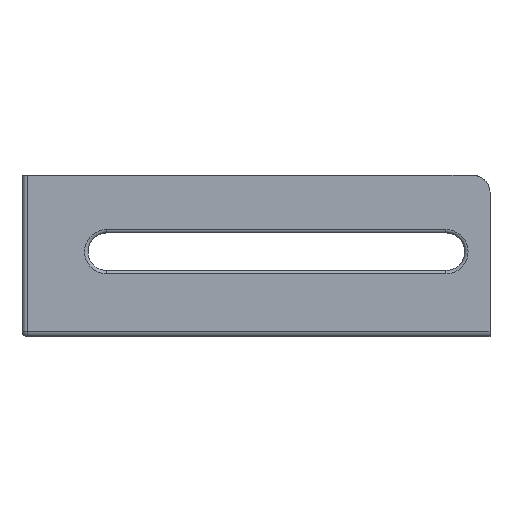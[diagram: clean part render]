
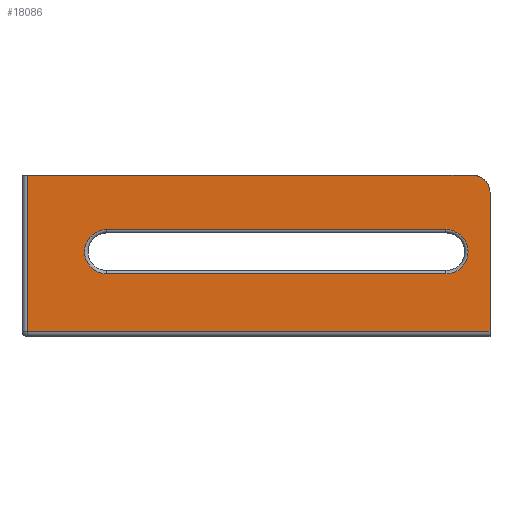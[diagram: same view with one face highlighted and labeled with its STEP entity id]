
A CAD part, front view. The second image highlights one B-rep face of the part: STEP entity #18086.
In plain terms, the highlighted planar face has unit normal (0, -1, 0).
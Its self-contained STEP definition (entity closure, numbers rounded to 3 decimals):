
#1435 = CIRCLE ( 'NONE', #3292, 13.075 ) ;
#1660 = EDGE_CURVE ( 'NONE', #14816, #28526, #15898, .T. ) ;
#1731 = CARTESIAN_POINT ( 'NONE',  ( 50., 0., 50. ) ) ;
#1872 = CARTESIAN_POINT ( 'NONE',  ( 50., 0., 63.075 ) ) ;
#2092 = CARTESIAN_POINT ( 'NONE',  ( 266., 0., 95. ) ) ;
#2197 = LINE ( 'NONE', #22232, #5963 ) ;
#2376 = CARTESIAN_POINT ( 'NONE',  ( 0., 0., 3. ) ) ;
#2630 = ORIENTED_EDGE ( 'NONE', *, *, #5893, .F. ) ;
#2733 = LINE ( 'NONE', #22332, #10478 ) ;
#2878 = DIRECTION ( 'NONE',  ( 1., 0., 0. ) ) ;
#3181 = CARTESIAN_POINT ( 'NONE',  ( 3., 0., 95. ) ) ;
#3292 = AXIS2_PLACEMENT_3D ( 'NONE', #1731, #10553, #19586 ) ;
#3773 = FACE_OUTER_BOUND ( 'NONE', #22434, .T. ) ;
#4164 = LINE ( 'NONE', #2376, #7013 ) ;
#5893 = EDGE_CURVE ( 'NONE', #12910, #12161, #21946, .T. ) ;
#5963 = VECTOR ( 'NONE', #22099, 1000. ) ;
#6254 = DIRECTION ( 'NONE',  ( -1., 0., 0. ) ) ;
#6290 = VECTOR ( 'NONE', #20150, 1000. ) ;
#6897 = ORIENTED_EDGE ( 'NONE', *, *, #12334, .F. ) ;
#7013 = VECTOR ( 'NONE', #10366, 1000. ) ;
#7177 = CARTESIAN_POINT ( 'NONE',  ( 250., 0., 63.075 ) ) ;
#7395 = EDGE_CURVE ( 'NONE', #21671, #12910, #11193, .T. ) ;
#8025 = DIRECTION ( 'NONE',  ( 0., 0., 1. ) ) ;
#8851 = EDGE_CURVE ( 'NONE', #27618, #21671, #2733, .T. ) ;
#9262 = DIRECTION ( 'NONE',  ( 0., 0., 1. ) ) ;
#9403 = CARTESIAN_POINT ( 'NONE',  ( 3., 0., 95. ) ) ;
#9778 = VECTOR ( 'NONE', #9262, 1000. ) ;
#10366 = DIRECTION ( 'NONE',  ( -1., 0., 0. ) ) ;
#10478 = VECTOR ( 'NONE', #2878, 1000. ) ;
#10553 = DIRECTION ( 'NONE',  ( 0., -1., 0. ) ) ;
#11193 = CIRCLE ( 'NONE', #14870, 13.075 ) ;
#12088 = VERTEX_POINT ( 'NONE', #9403 ) ;
#12161 = VERTEX_POINT ( 'NONE', #1872 ) ;
#12334 = EDGE_CURVE ( 'NONE', #12088, #14816, #24491, .T. ) ;
#12614 = EDGE_LOOP ( 'NONE', ( #2630, #22001, #21497, #23232 ) ) ;
#12910 = VERTEX_POINT ( 'NONE', #7177 ) ;
#13822 = DIRECTION ( 'NONE',  ( 0., -1., 0. ) ) ;
#14582 = FACE_BOUND ( 'NONE', #12614, .T. ) ;
#14694 = ORIENTED_EDGE ( 'NONE', *, *, #21530, .F. ) ;
#14816 = VERTEX_POINT ( 'NONE', #2092 ) ;
#14854 = CARTESIAN_POINT ( 'NONE',  ( 250., 0., 36.925 ) ) ;
#14870 = AXIS2_PLACEMENT_3D ( 'NONE', #26783, #13822, #20297 ) ;
#15587 = ORIENTED_EDGE ( 'NONE', *, *, #16276, .F. ) ;
#15898 = CIRCLE ( 'NONE', #26470, 10. ) ;
#16091 = VERTEX_POINT ( 'NONE', #17211 ) ;
#16276 = EDGE_CURVE ( 'NONE', #28526, #16091, #2197, .T. ) ;
#17046 = PLANE ( 'NONE',  #26240 ) ;
#17185 = CARTESIAN_POINT ( 'NONE',  ( 0., 0., 95. ) ) ;
#17211 = CARTESIAN_POINT ( 'NONE',  ( 276., 0., 3. ) ) ;
#18086 = ADVANCED_FACE ( 'NONE', ( #14582, #3773 ), #17046, .T. ) ;
#18489 = VERTEX_POINT ( 'NONE', #18548 ) ;
#18548 = CARTESIAN_POINT ( 'NONE',  ( 3., 0., 3. ) ) ;
#19218 = CARTESIAN_POINT ( 'NONE',  ( 266., 0., 85. ) ) ;
#19586 = DIRECTION ( 'NONE',  ( 0., 0., 1. ) ) ;
#20150 = DIRECTION ( 'NONE',  ( 1., 0., 0. ) ) ;
#20297 = DIRECTION ( 'NONE',  ( 0., 0., 1. ) ) ;
#20609 = EDGE_CURVE ( 'NONE', #12161, #27618, #1435, .T. ) ;
#20904 = EDGE_CURVE ( 'NONE', #16091, #18489, #4164, .T. ) ;
#21125 = VECTOR ( 'NONE', #6254, 1000. ) ;
#21350 = DIRECTION ( 'NONE',  ( 0., -1., 0. ) ) ;
#21497 = ORIENTED_EDGE ( 'NONE', *, *, #8851, .F. ) ;
#21530 = EDGE_CURVE ( 'NONE', #18489, #12088, #27379, .T. ) ;
#21671 = VERTEX_POINT ( 'NONE', #14854 ) ;
#21946 = LINE ( 'NONE', #26278, #21125 ) ;
#22001 = ORIENTED_EDGE ( 'NONE', *, *, #7395, .F. ) ;
#22099 = DIRECTION ( 'NONE',  ( 0., 0., -1. ) ) ;
#22192 = CARTESIAN_POINT ( 'NONE',  ( 0., 0., 95. ) ) ;
#22232 = CARTESIAN_POINT ( 'NONE',  ( 276., 0., 95. ) ) ;
#22332 = CARTESIAN_POINT ( 'NONE',  ( 250., 0., 36.925 ) ) ;
#22434 = EDGE_LOOP ( 'NONE', ( #25167, #15587, #27766, #6897, #14694 ) ) ;
#23232 = ORIENTED_EDGE ( 'NONE', *, *, #20609, .F. ) ;
#23520 = DIRECTION ( 'NONE',  ( 0., 0., 1. ) ) ;
#24491 = LINE ( 'NONE', #22192, #6290 ) ;
#25167 = ORIENTED_EDGE ( 'NONE', *, *, #20904, .F. ) ;
#25607 = CARTESIAN_POINT ( 'NONE',  ( 50., 0., 36.925 ) ) ;
#26002 = DIRECTION ( 'NONE',  ( 0., 1., 0. ) ) ;
#26240 = AXIS2_PLACEMENT_3D ( 'NONE', #17185, #21350, #23520 ) ;
#26278 = CARTESIAN_POINT ( 'NONE',  ( 50., 0., 63.075 ) ) ;
#26470 = AXIS2_PLACEMENT_3D ( 'NONE', #19218, #26002, #8025 ) ;
#26783 = CARTESIAN_POINT ( 'NONE',  ( 250., 0., 50. ) ) ;
#27379 = LINE ( 'NONE', #3181, #9778 ) ;
#27618 = VERTEX_POINT ( 'NONE', #25607 ) ;
#27766 = ORIENTED_EDGE ( 'NONE', *, *, #1660, .F. ) ;
#28059 = CARTESIAN_POINT ( 'NONE',  ( 276., 0., 85. ) ) ;
#28526 = VERTEX_POINT ( 'NONE', #28059 ) ;
